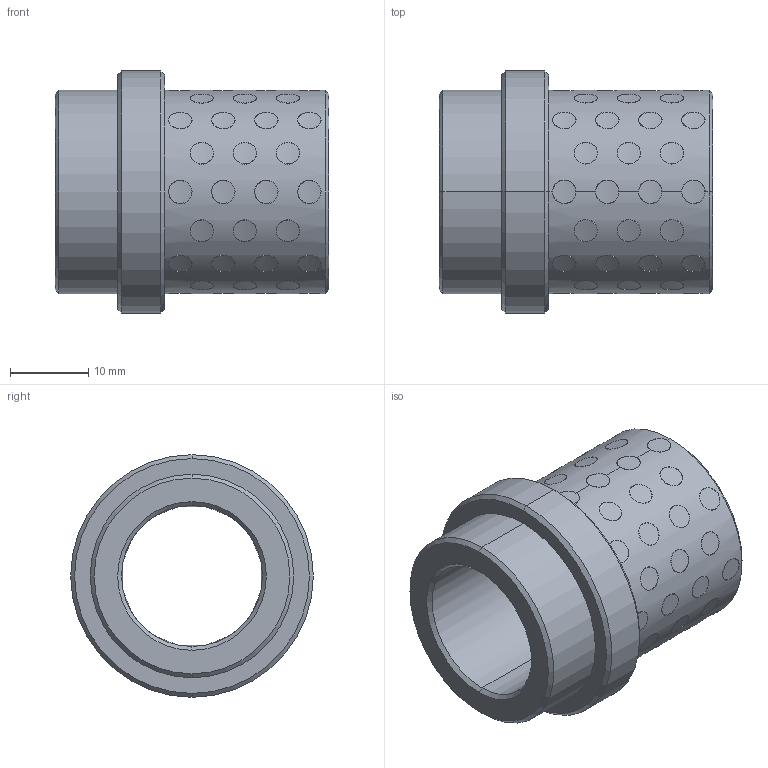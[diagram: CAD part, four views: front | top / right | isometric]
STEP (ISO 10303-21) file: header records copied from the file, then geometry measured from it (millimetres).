
FILE_DESCRIPTION((''),'2;1');
FILE_NAME('G31218027','2017-12-30T',('MANU'),(''),'PRO/ENGINEER BY PARAMETRIC TECHNOLOGY CORPORATION, 2012130','PRO/ENGINEER BY PARAMETRIC TECHNOLOGY CORPORATION, 2012130','');
FILE_SCHEMA(('CONFIG_CONTROL_DESIGN'));
Length unit declared in the file: millimetre
Products named in the file (1): G31218027
Bounding box: 35 x 31 x 31 mm (x, y, z)
Volume: 10907.9 mm3; surface area: 9975.1 mm2
Topology: 57 solids, 57 shells, 360 faces, 768 edges, 508 vertices
Faces by surface type: cylinder 344, cone 12, plane 4
Entity records: 16180 total; most frequent: CARTESIAN_POINT 9118, ORIENTED_EDGE 1536, DIRECTION 1036, EDGE_CURVE 768, VERTEX_POINT 508, B_SPLINE_CURVE_WITH_KNOTS 480, EDGE_LOOP 460, AXIS2_PLACEMENT_3D 388
